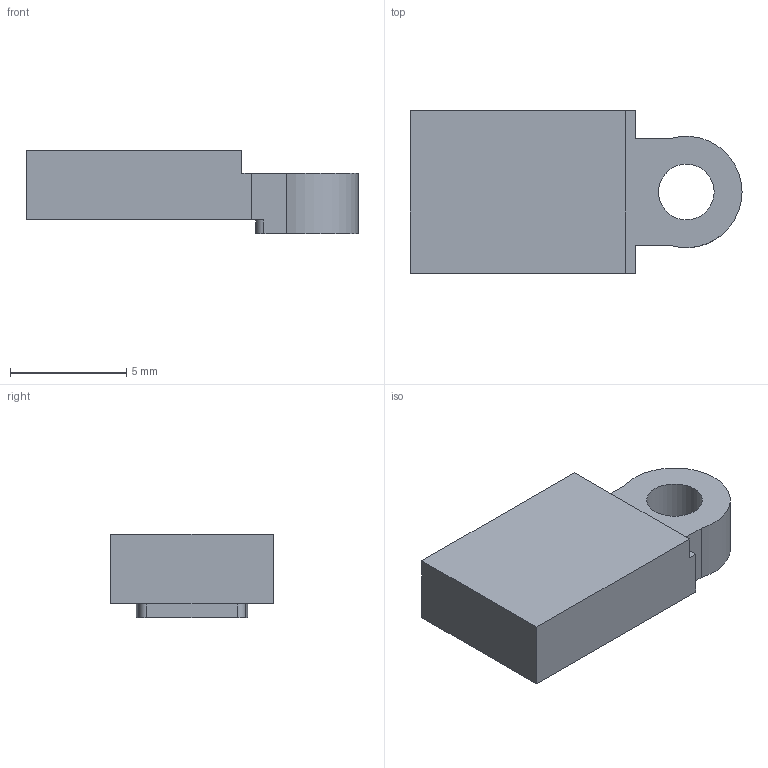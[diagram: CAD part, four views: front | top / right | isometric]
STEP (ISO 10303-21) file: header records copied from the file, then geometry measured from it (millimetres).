
FILE_DESCRIPTION(('Open CASCADE Model'),'2;1');
FILE_NAME('Open CASCADE Shape Model','2026-09-15T13:37:42',('Author'),( 'Open CASCADE'),'Open CASCADE STEP processor 7.7','Open CASCADE 7.7' ,'Unknown');
FILE_SCHEMA(('AUTOMOTIVE_DESIGN { 1 0 10303 214 1 1 1 1 }'));
Length unit declared in the file: millimetre
Products named in the file (1): Open CASCADE STEP translator 7.7 7
Bounding box: 14.3 x 7 x 3.6 mm (x, y, z)
Volume: 238.6 mm3; surface area: 308.5 mm2
Topology: 1 solids, 1 shells, 17 faces, 45 edges, 30 vertices
Faces by surface type: plane 13, cylinder 4
Full cylindrical faces by diameter (mm): 2.4 x1
Entity records: 1129 total; most frequent: CARTESIAN_POINT 189, DIRECTION 178, LINE 119, VECTOR 119, ORIENTED_EDGE 90, PCURVE 90, DEFINITIONAL_REPRESENTATION 90, EDGE_CURVE 45
